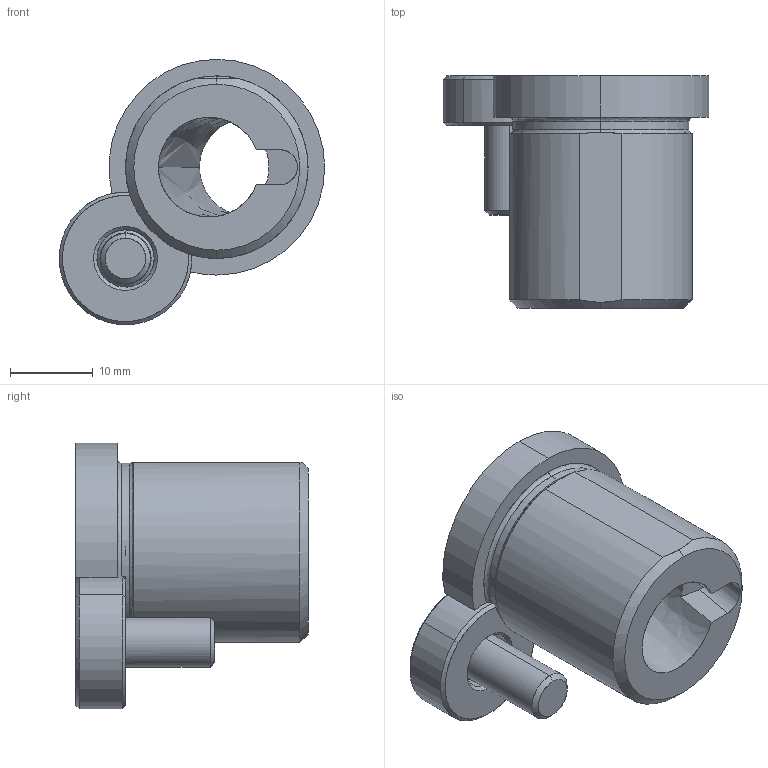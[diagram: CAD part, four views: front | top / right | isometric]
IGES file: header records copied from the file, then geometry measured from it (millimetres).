
Start section: START RECORD GO HERE.
Global section: file name: gr222826-10.igs; native system: DASSAULT SYSTEMES CATIA V5 R20 - www.3ds.com; preprocessor: CATIA Version 5 Release 20 ; author: Utente; organization: NB04-ASUS; date: 20201108.075549; units: millimetre
Bounding box: 31.98 x 28 x 31.98 mm (x, y, z)
Surface area: 5221.8 mm2 (no closed solid volume)
Topology: 0 solids, 0 shells, 71 faces, 322 edges, 320 vertices
Faces by surface type: revolution 46, plane 25
